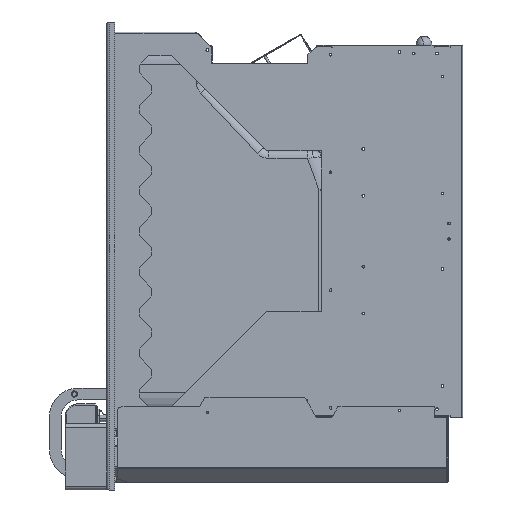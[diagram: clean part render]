
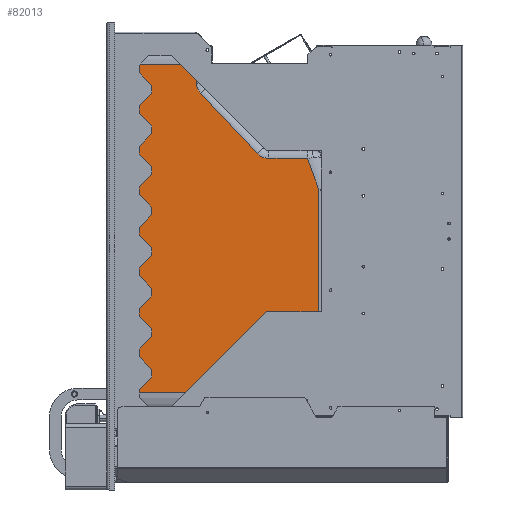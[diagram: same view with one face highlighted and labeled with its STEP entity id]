
A CAD part, left-side view. The second image highlights one B-rep face of the part: STEP entity #82013.
In plain terms, the highlighted planar face has unit normal (-1, 0, 0).
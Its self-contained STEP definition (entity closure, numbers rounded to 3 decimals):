
#522 = CARTESIAN_POINT ( 'NONE',  ( -86., 0., -523.5 ) ) ;
#654 = CARTESIAN_POINT ( 'NONE',  ( -86., -272.009, -224.117 ) ) ;
#1645 = DIRECTION ( 'NONE',  ( 1., 0., 0. ) ) ;
#3153 = AXIS2_PLACEMENT_3D ( 'NONE', #60857, #1645, #36332 ) ;
#3574 = VERTEX_POINT ( 'NONE', #41605 ) ;
#7068 = DIRECTION ( 'NONE',  ( 0., -0.058, -0.998 ) ) ;
#8178 = LINE ( 'NONE', #42893, #102053 ) ;
#9404 = ORIENTED_EDGE ( 'NONE', *, *, #35279, .F. ) ;
#10121 = VECTOR ( 'NONE', #13824, 1000. ) ;
#11051 = CARTESIAN_POINT ( 'NONE',  ( -86., -272.009, -523.5 ) ) ;
#11618 = ORIENTED_EDGE ( 'NONE', *, *, #46759, .F. ) ;
#13602 = CARTESIAN_POINT ( 'NONE',  ( -86., 0., -183.5 ) ) ;
#13824 = DIRECTION ( 'NONE',  ( 0., 0.342, -0.94 ) ) ;
#14266 = DIRECTION ( 'NONE',  ( 0., -0.342, -0.94 ) ) ;
#15585 = CARTESIAN_POINT ( 'NONE',  ( -86., -193.284, -177.257 ) ) ;
#15943 = DIRECTION ( 'NONE',  ( 0., 0., -1. ) ) ;
#18134 = ORIENTED_EDGE ( 'NONE', *, *, #55883, .F. ) ;
#19227 = VECTOR ( 'NONE', #62840, 1000. ) ;
#23360 = CARTESIAN_POINT ( 'NONE',  ( -86., -336.41, -401.057 ) ) ;
#23489 = VECTOR ( 'NONE', #80307, 1000. ) ;
#24434 = CARTESIAN_POINT ( 'NONE',  ( -86., 0., -63.5 ) ) ;
#24437 = CARTESIAN_POINT ( 'NONE',  ( -86., -272.009, -472.883 ) ) ;
#26690 = DIRECTION ( 'NONE',  ( 0., -1., 0. ) ) ;
#27106 = DIRECTION ( 'NONE',  ( 1., 0., 0. ) ) ;
#28241 = CARTESIAN_POINT ( 'NONE',  ( -86., -223.922, -605.001 ) ) ;
#32813 = VERTEX_POINT ( 'NONE', #65307 ) ;
#33671 = VERTEX_POINT ( 'NONE', #111434 ) ;
#33931 = LINE ( 'NONE', #59005, #91178 ) ;
#34805 = ORIENTED_EDGE ( 'NONE', *, *, #39900, .F. ) ;
#35279 = EDGE_CURVE ( 'NONE', #82940, #41098, #64920, .T. ) ;
#36332 = DIRECTION ( 'NONE',  ( 0., 0., 1. ) ) ;
#39900 = EDGE_CURVE ( 'NONE', #3574, #91996, #8178, .T. ) ;
#41098 = VERTEX_POINT ( 'NONE', #654 ) ;
#41605 = CARTESIAN_POINT ( 'NONE',  ( -86., -113.393, -63.5 ) ) ;
#42893 = CARTESIAN_POINT ( 'NONE',  ( -86., -139.84, -515.314 ) ) ;
#43566 = ORIENTED_EDGE ( 'NONE', *, *, #104072, .T. ) ;
#43766 = DIRECTION ( 'NONE',  ( -1., 0., 0. ) ) ;
#43921 = EDGE_CURVE ( 'NONE', #52752, #106672, #71942, .T. ) ;
#43930 = ORIENTED_EDGE ( 'NONE', *, *, #50890, .F. ) ;
#46759 = EDGE_CURVE ( 'NONE', #41098, #81972, #62290, .T. ) ;
#46934 = CARTESIAN_POINT ( 'NONE',  ( -86., -120.253, -100.194 ) ) ;
#46974 = VERTEX_POINT ( 'NONE', #67866 ) ;
#48146 = ORIENTED_EDGE ( 'NONE', *, *, #101775, .F. ) ;
#48175 = AXIS2_PLACEMENT_3D ( 'NONE', #522, #43766, #15943 ) ;
#50369 = ORIENTED_EDGE ( 'NONE', *, *, #43921, .T. ) ;
#50890 = EDGE_CURVE ( 'NONE', #52752, #82940, #101754, .T. ) ;
#52752 = VERTEX_POINT ( 'NONE', #102143 ) ;
#55866 = CARTESIAN_POINT ( 'NONE',  ( -86., 0., -483.5 ) ) ;
#55883 = EDGE_CURVE ( 'NONE', #32813, #3574, #102926, .T. ) ;
#59005 = CARTESIAN_POINT ( 'NONE',  ( -86., -3., -523.5 ) ) ;
#60857 = CARTESIAN_POINT ( 'NONE',  ( -86., -134.77, -86.436 ) ) ;
#62290 = LINE ( 'NONE', #11051, #19227 ) ;
#62840 = DIRECTION ( 'NONE',  ( 0., 0., -1. ) ) ;
#64920 = LINE ( 'NONE', #23360, #97772 ) ;
#65307 = CARTESIAN_POINT ( 'NONE',  ( -86., -3., -63.5 ) ) ;
#67261 = CARTESIAN_POINT ( 'NONE',  ( -86., -114.804, -87.605 ) ) ;
#67269 = VERTEX_POINT ( 'NONE', #46934 ) ;
#67866 = CARTESIAN_POINT ( 'NONE',  ( -86., -3., -483.5 ) ) ;
#68297 = AXIS2_PLACEMENT_3D ( 'NONE', #105561, #27106, #95354 ) ;
#68654 = VECTOR ( 'NONE', #75817, 1000. ) ;
#68767 = DIRECTION ( 'NONE',  ( 0., -1., 0. ) ) ;
#71942 = CIRCLE ( 'NONE', #68297, 20. ) ;
#72917 = LINE ( 'NONE', #55866, #23489 ) ;
#75817 = DIRECTION ( 'NONE',  ( 0., -0.688, -0.726 ) ) ;
#75850 = CIRCLE ( 'NONE', #3153, 20. ) ;
#78886 = VECTOR ( 'NONE', #26690, 1000. ) ;
#79895 = EDGE_LOOP ( 'NONE', ( #18134, #43566, #48146, #94699, #11618, #9404, #43930, #50369, #98524, #89218, #34805 ) ) ;
#80307 = DIRECTION ( 'NONE',  ( 0., 1., 0. ) ) ;
#81972 = VERTEX_POINT ( 'NONE', #24437 ) ;
#82013 = ADVANCED_FACE ( 'NONE', ( #93840 ), #87003, .T. ) ;
#82940 = VERTEX_POINT ( 'NONE', #97907 ) ;
#83780 = CARTESIAN_POINT ( 'NONE',  ( -86., -274.703, -263.173 ) ) ;
#83790 = LINE ( 'NONE', #28241, #10121 ) ;
#85487 = VECTOR ( 'NONE', #68767, 1000. ) ;
#87003 = PLANE ( 'NONE',  #48175 ) ;
#89218 = ORIENTED_EDGE ( 'NONE', *, *, #110833, .T. ) ;
#91178 = VECTOR ( 'NONE', #93655, 1000. ) ;
#91996 = VERTEX_POINT ( 'NONE', #67261 ) ;
#92859 = LINE ( 'NONE', #83780, #68654 ) ;
#93655 = DIRECTION ( 'NONE',  ( 0., 0., -1. ) ) ;
#93840 = FACE_OUTER_BOUND ( 'NONE', #79895, .T. ) ;
#94307 = EDGE_CURVE ( 'NONE', #81972, #33671, #83790, .T. ) ;
#94699 = ORIENTED_EDGE ( 'NONE', *, *, #94307, .F. ) ;
#95354 = DIRECTION ( 'NONE',  ( 0., 0., 1. ) ) ;
#97772 = VECTOR ( 'NONE', #14266, 1000. ) ;
#97907 = CARTESIAN_POINT ( 'NONE',  ( -86., -257.226, -183.5 ) ) ;
#98524 = ORIENTED_EDGE ( 'NONE', *, *, #100221, .F. ) ;
#100221 = EDGE_CURVE ( 'NONE', #67269, #106672, #92859, .T. ) ;
#101754 = LINE ( 'NONE', #13602, #85487 ) ;
#101775 = EDGE_CURVE ( 'NONE', #33671, #46974, #72917, .T. ) ;
#102053 = VECTOR ( 'NONE', #7068, 1000. ) ;
#102143 = CARTESIAN_POINT ( 'NONE',  ( -86., -207.8, -183.5 ) ) ;
#102926 = LINE ( 'NONE', #24434, #78886 ) ;
#104072 = EDGE_CURVE ( 'NONE', #32813, #46974, #33931, .T. ) ;
#105561 = CARTESIAN_POINT ( 'NONE',  ( -86., -207.8, -163.5 ) ) ;
#106672 = VERTEX_POINT ( 'NONE', #15585 ) ;
#110833 = EDGE_CURVE ( 'NONE', #67269, #91996, #75850, .T. ) ;
#111434 = CARTESIAN_POINT ( 'NONE',  ( -86., -268.145, -483.5 ) ) ;
